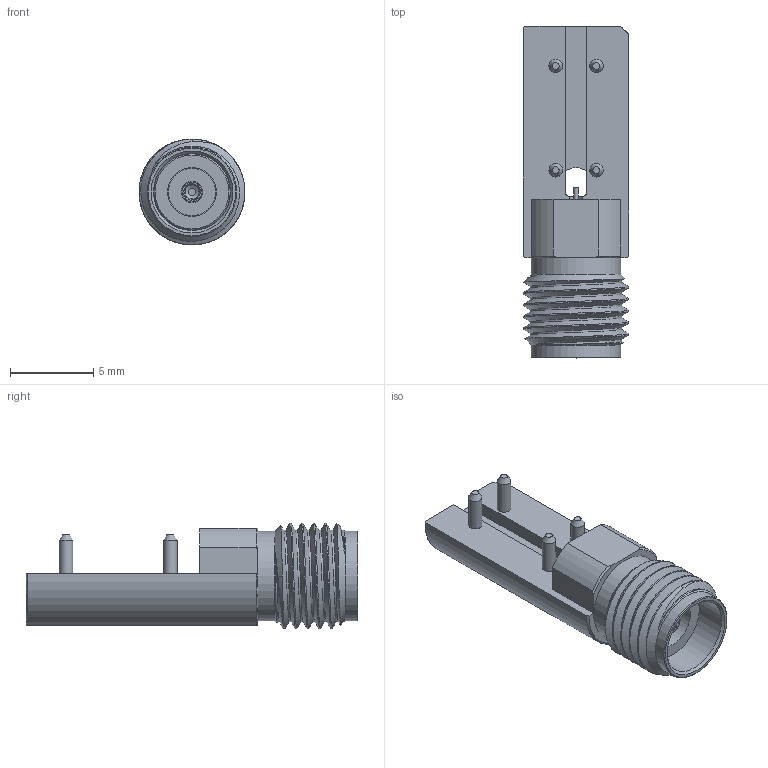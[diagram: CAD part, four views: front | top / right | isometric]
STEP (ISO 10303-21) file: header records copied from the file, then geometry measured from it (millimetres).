
FILE_DESCRIPTION (( 'STEP AP214' ), '1' );
FILE_NAME ('TMB-E9FS-1ST.STEP', '2021-04-08T03:31:16', ( '' ), ( '' ), 'SwSTEP 2.0', 'SolidWorks 2019', '' );
FILE_SCHEMA (( 'AUTOMOTIVE_DESIGN' ));
Length unit declared in the file: millimetre
Products named in the file (1): TMB-E9FS-1ST
Bounding box: 6.35 x 19.9 x 6.35 mm (x, y, z)
Volume: 360.6 mm3; surface area: 655.8 mm2
Topology: 1 solids, 3 shells, 113 faces, 278 edges, 179 vertices
Faces by surface type: plane 45, cylinder 26, cone 23, bspline 19
Full cylindrical faces by diameter (mm): 0.25 x1, 0.79 x1, 0.81 x5, 0.97 x1, 1.27 x1, 2.03 x1, 2.84 x1, 2.92 x1, 3.24 x1, 4.52 x1, 4.55 x1, 4.58 x1, 4.613 x1, 5.35 x2
Entity records: 7084 total; most frequent: CARTESIAN_POINT 3564, ORIENTED_EDGE 462, DIRECTION 425, EDGE_CURVE 231, AXIS2_PLACEMENT_3D 174, VERTEX_POINT 164, EDGE_LOOP 157, FACE_OUTER_BOUND 131
